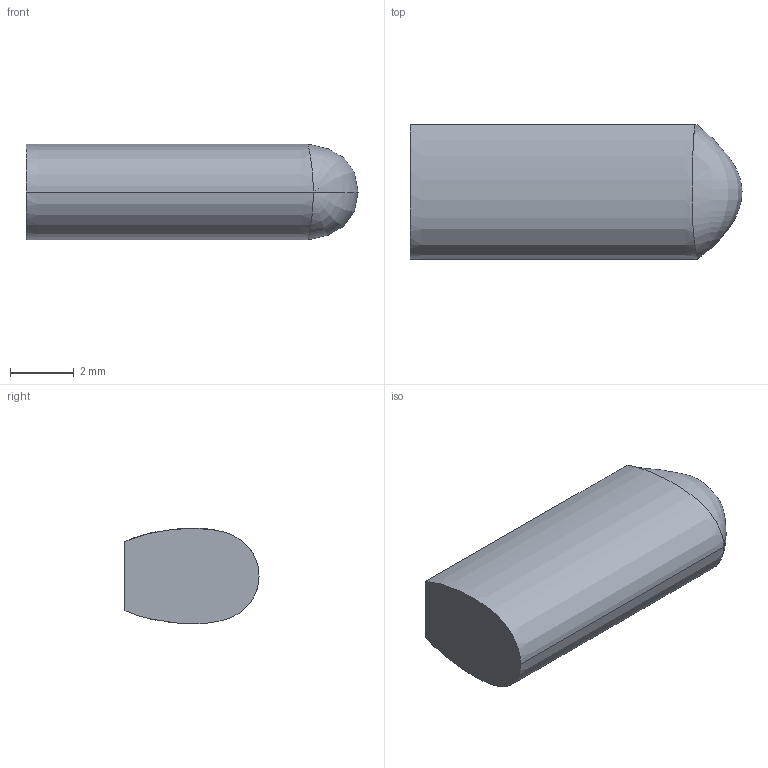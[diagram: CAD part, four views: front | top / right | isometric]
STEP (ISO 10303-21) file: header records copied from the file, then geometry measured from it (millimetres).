
FILE_DESCRIPTION((''),'1');
FILE_NAME('ELEK-ST14-14R','2001-03-30T',('rgoetz'),(''),'PRO/ENGINEER BY PARAMETRIC TECHNOLOGY CORPORATION, 2000350','PRO/ENGINEER BY PARAMETRIC TECHNOLOGY CORPORATION, 2000350','');
FILE_SCHEMA(('CONFIG_CONTROL_DESIGN'));
Length unit declared in the file: millimetre
Products named in the file (1): ELEK-ST14-14R
Bounding box: 10.4 x 4.2 x 3 mm (x, y, z)
Volume: 106.2 mm3; surface area: 138 mm2
Topology: 1 solids, 1 shells, 6 faces, 13 edges, 7 vertices
Faces by surface type: plane 2, extrusion 2, bspline 2
Entity records: 613 total; most frequent: CARTESIAN_POINT 472, ORIENTED_EDGE 22, EDGE_CURVE 11, DIRECTION 10, B_SPLINE_CURVE_WITH_KNOTS 9, VERTEX_POINT 7, VECTOR 6, EDGE_LOOP 6
